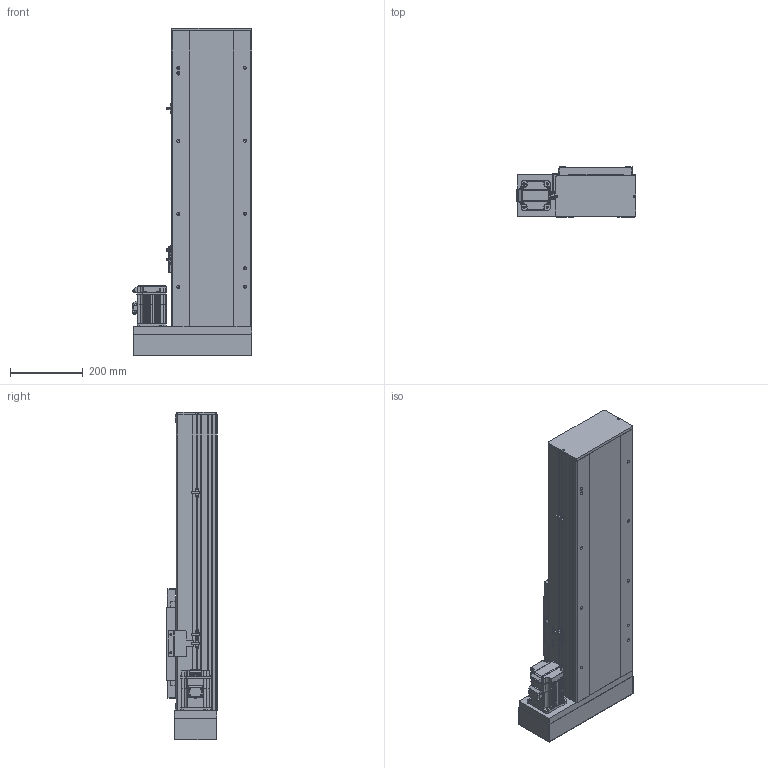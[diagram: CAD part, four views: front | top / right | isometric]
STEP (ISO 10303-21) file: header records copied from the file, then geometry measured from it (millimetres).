
FILE_DESCRIPTION (( 'STEP AP214' ), '1' );
FILE_NAME ('TPF22-400-BL-P75.STEP', '2023-03-29T03:40:38', ( '' ), ( '' ), 'SwSTEP 2.0', 'SolidWorks 2020', '' );
FILE_SCHEMA (( 'AUTOMOTIVE_DESIGN' ));
Length unit declared in the file: millimetre
Products named in the file (8): 葩璃 TPF22-BC-001 菁釱MZ-220-01^TPF22-BL-P75; TPF22-400-BL-P75; 葩璃 TPF22-BL R-009 萇儂啣^TPF22-BL-P75_耳32-750W; 葩璃 MSMD08PC_P75^TPF22-BL-P75; 葩璃 TPF22-BC-002 耜裔ZTMZ-220-04^TPF22-BL-P75; 葩璃 TPE22 賑雄殤^TPF22-BL-P75; 葩璃 pm-t65-672^TPF22-BL-P75; 葩璃 詩湍150^TPF22-BL-P75
Assembly tree (10 placements, depth 2):
  TPF22-400-BL-P75
    葩璃 TPF22-BC-001 菁釱MZ-220-01^TPF22-BL-P75
    葩璃 TPF22-BC-002 耜裔ZTMZ-220-04^TPF22-BL-P75  x2
    葩璃 TPE22 賑雄殤^TPF22-BL-P75
    葩璃 詩湍150^TPF22-BL-P75
    葩璃 TPF22-BL R-009 萇儂啣^TPF22-BL-P75_耳32-750W
    葩璃 pm-t65-672^TPF22-BL-P75  x3
    葩璃 MSMD08PC_P75^TPF22-BL-P75
Bounding box: 327.5 x 138 x 899 mm (x, y, z)
Volume: 11089767.4 mm3; surface area: 1792046.5 mm2
Topology: 16 solids, 16 shells, 1520 faces, 4014 edges, 2581 vertices
Faces by surface type: plane 977, cylinder 467, cone 46, bspline 30
Entity records: 41851 total; most frequent: CARTESIAN_POINT 8919, ORIENTED_EDGE 6580, DIRECTION 6537, EDGE_CURVE 3290, VECTOR 2337, LINE 2337, VERTEX_POINT 2125, AXIS2_PLACEMENT_3D 2100
